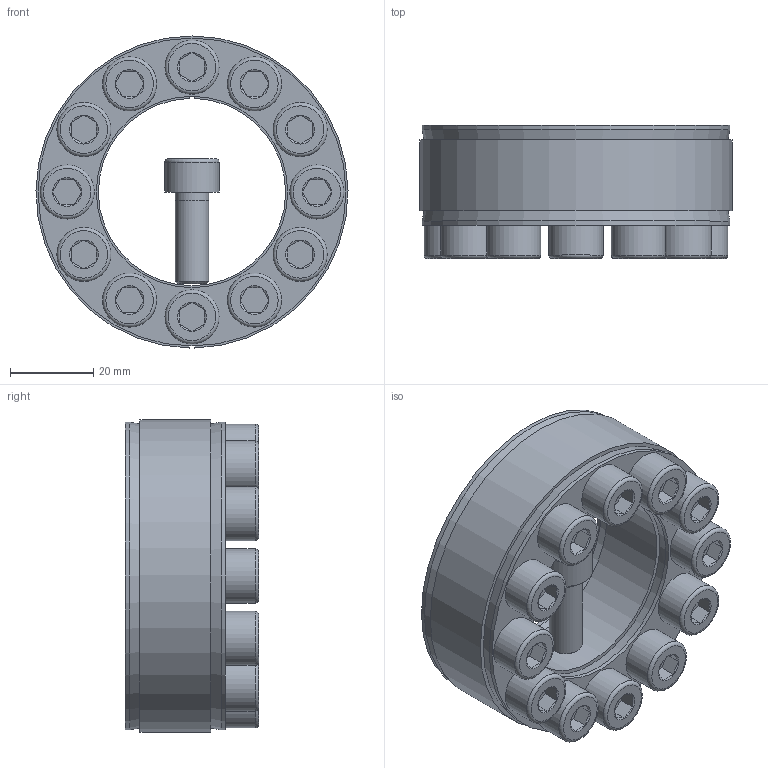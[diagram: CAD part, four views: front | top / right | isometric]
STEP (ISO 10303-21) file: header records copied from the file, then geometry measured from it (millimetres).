
FILE_DESCRIPTION( ( 'Unknown' ), '1' );
FILE_NAME( 'C:/Dokumente und Einstellungen/Sven/Desktop/homepage/cad - homepage/KBS40/KBS 40 - 45 x 75.stp', 'Unknown', ( 'Unknown' ), ( 'Unknown' ), 'XStep 1.0', 'Unknown', ' ' );
FILE_SCHEMA( ( 'automotive_design' ) );
Length unit declared in the file: millimetre
Products named in the file (14): Assem1; KBS 40 45x75; ISO 4762 M8x22; ISO 4762 M8x22-oa0; ISO 4762 M8x22-oa1; ISO 4762 M8x22-oa2; ISO 4762 M8x22-oa3; ISO 4762 M8x22-oa4; ISO 4762 M8x22-oa5; ISO 4762 M8x22-oa6; ISO 4762 M8x22-oa7; ISO 4762 M8x22-oa8; ISO 4762 M8x22-oa9; ISO 4762 M8x22-oa10
Bounding box: 75 x 32 x 74.99 mm (x, y, z)
Volume: 151879.7 mm3; surface area: 71893.3 mm2
Topology: 26 solids, 26 shells, 684 faces, 1268 edges, 732 vertices
Faces by surface type: plane 328, cone 176, cylinder 132, torus 48
Full cylindrical faces by diameter (mm): 7 x24, 8 x72, 13 x24, 46 x4, 74 x4
Entity records: 8451 total; most frequent: CARTESIAN_POINT 1752, DIRECTION 1392, ORIENTED_EDGE 1008, AXIS2_PLACEMENT_3D 604, EDGE_LOOP 520, EDGE_CURVE 504, FACE_OUTER_BOUND 430, ADVANCED_FACE 342
